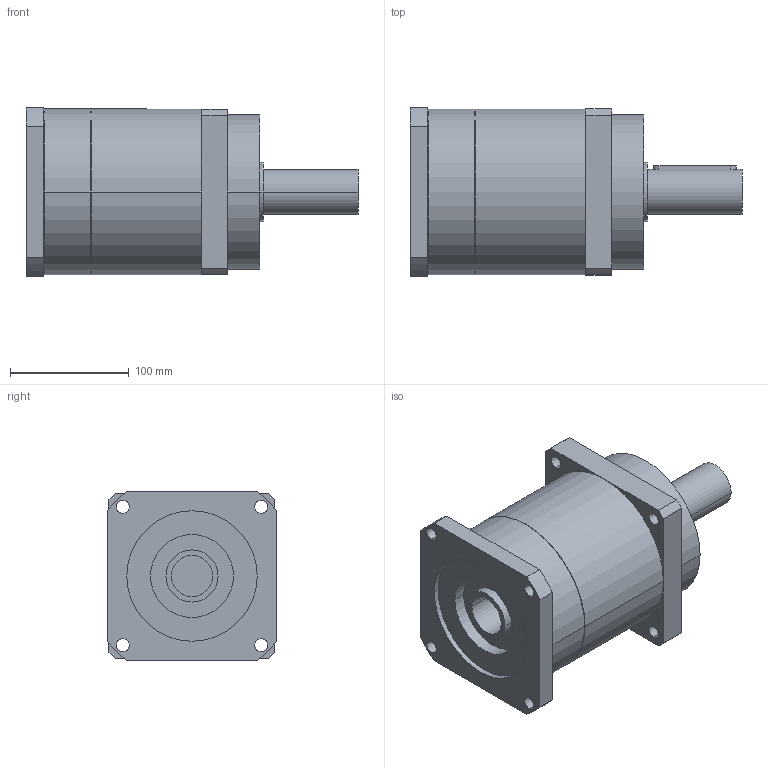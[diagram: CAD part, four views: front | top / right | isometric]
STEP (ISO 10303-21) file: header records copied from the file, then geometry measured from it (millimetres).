
FILE_DESCRIPTION(('CoCreate Modeling STEP Export'),'2;1');
FILE_NAME('GPR150_ig-3-4-5-7_38_B5_35_P14.stp','2014-08-19T16:43:20',(''),(''),'CoCreate Modeling STEP processor for AP214 (Solid Model)','CoCreate Modeling 16.00C 25-Feb-2009 (C) Parametric Technology GmbH','');
FILE_SCHEMA(('AUTOMOTIVE_DESIGN { 1 0 10303 214 1 1 1 1 }'));
Length unit declared in the file: millimetre
Products named in the file (2): GPR150_ig-3-4-5-7_38_B5_35_P14
Assembly tree (1 placements, depth 2):
  GPR150_ig-3-4-5-7_38_B5_35_P14
    GPR150_ig-3-4-5-7_38_B5_35_P14
Bounding box: 280 x 142 x 142 mm (x, y, z)
Volume: 3069583.9 mm3; surface area: 165608.2 mm2
Topology: 1 solids, 1 shells, 78 faces, 214 edges, 146 vertices
Faces by surface type: cylinder 46, plane 26, cone 6
Entity records: 2260 total; most frequent: ORIENTED_EDGE 424, CARTESIAN_POINT 421, DIRECTION 320, EDGE_CURVE 212, VERTEX_POINT 146, AXIS2_PLACEMENT_3D 117, EDGE_LOOP 104, VECTOR 86
